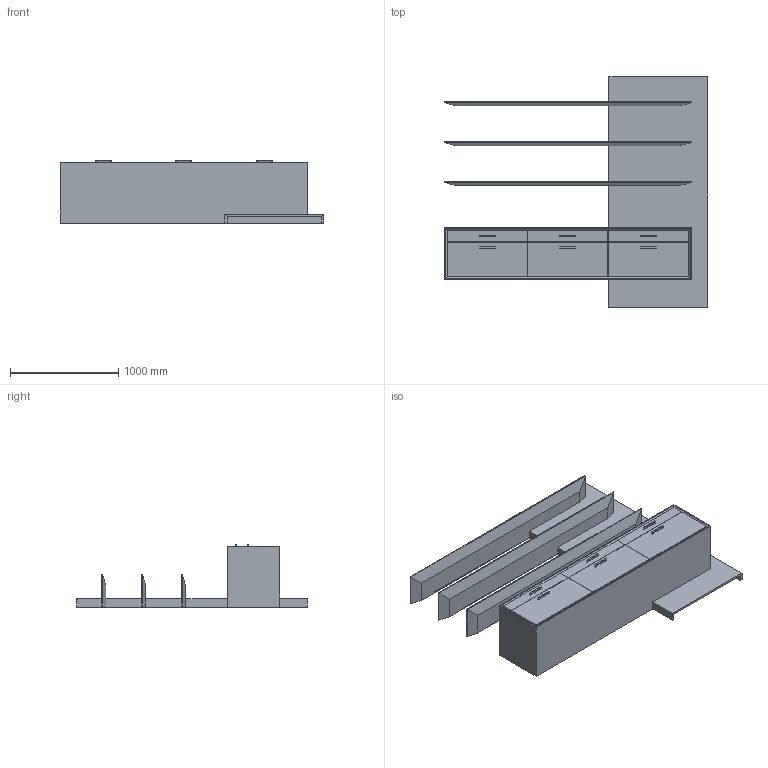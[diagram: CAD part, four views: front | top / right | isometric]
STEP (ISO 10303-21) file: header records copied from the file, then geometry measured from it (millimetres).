
FILE_DESCRIPTION(/* description */ ('','CAx-IF Rec.Pracs.---Representation and Presentation of Product Manufacturing Information (PMI)---4.0---2014-10-13'),/* implementation_level */ '2;1');
FILE_NAME(/* name */ 'AERO^CS4.stp',/* time_stamp */ '2024-12-05T16:51:54-05:00',/* author */ ('mbowman'),/* organization */ (''),/* preprocessor_version */ 'ST-DEVELOPER v19.2',/* originating_system */ 'Autodesk Inventor 2023',/* authorisation */ '');
FILE_SCHEMA (('AP242_MANAGED_MODEL_BASED_3D_ENGINEERING_MIM_LF { 1 0 10303 442 1 1 4 }'));
Length unit declared in the file: inch
Products named in the file (6): AERO^STANDARD CREDENZA_19H WALL HUNG W SHELVES-SOLID ASSEMBLY; AERO^STANDARD CREDENZA_19H WH CREDENZA-NOTCHED CASE; AERO^STANDARD CREDENZA_WALL HUNG SHELVES-NOTCHED SHELF; AERO^STANDARD CREDENZA_WALL HUNG W SHELVES-WOOD WALL; SHEPPARD BRACKETS^1 INCH PLATE_7 INCH POST-46 INCH LENGTH; H-Q-PULLNEW
Assembly tree (14 placements, depth 2):
  AERO^STANDARD CREDENZA_19H WALL HUNG W SHELVES-SOLID ASSEMBLY
    AERO^STANDARD CREDENZA_19H WH CREDENZA-NOTCHED CASE
    AERO^STANDARD CREDENZA_WALL HUNG SHELVES-NOTCHED SHELF  x3
    AERO^STANDARD CREDENZA_WALL HUNG W SHELVES-WOOD WALL
    SHEPPARD BRACKETS^1 INCH PLATE_7 INCH POST-46 INCH LENGTH  x3
    H-Q-PULLNEW  x6
Bounding box: 2438.4 x 2133.6 x 574.67 mm (x, y, z)
Volume: 252112511.2 mm3; surface area: 20738846.1 mm2
Topology: 30 solids, 30 shells, 934 faces, 2459 edges, 1624 vertices
Faces by surface type: plane 535, cylinder 351, torus 24, cone 12, bspline 12
Full cylindrical faces by diameter (mm): 3.962 x12, 9.525 x12, 12.7 x24
Entity records: 13222 total; most frequent: CARTESIAN_POINT 2523, DIRECTION 2120, ORIENTED_EDGE 1962, EDGE_CURVE 981, LINE 732, VECTOR 732, AXIS2_PLACEMENT_3D 694, VERTEX_POINT 650
